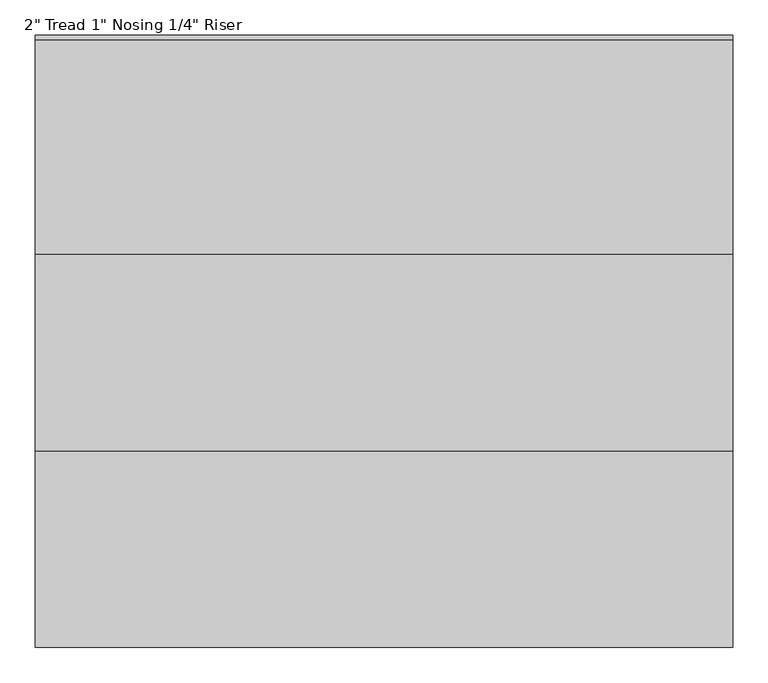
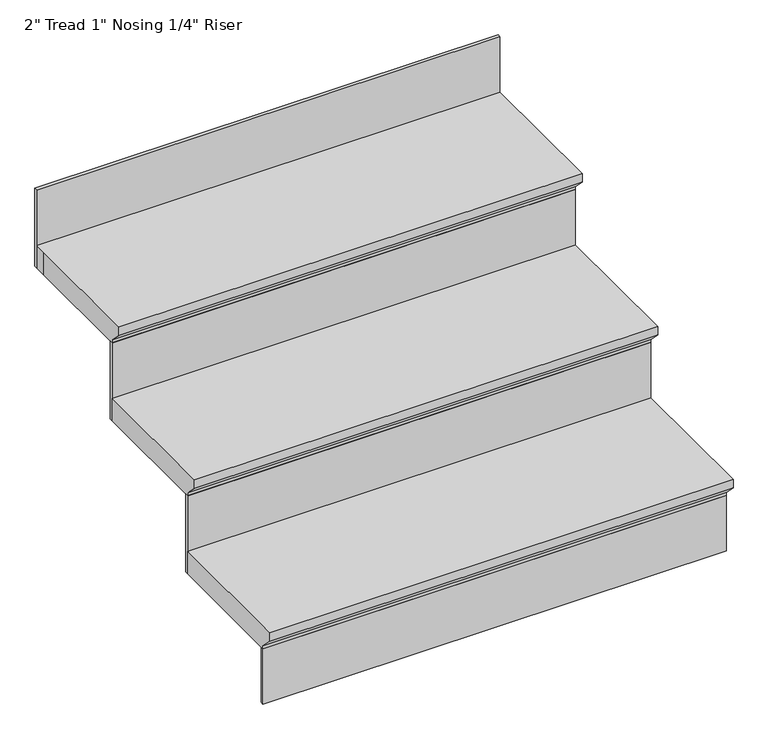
"""IFC4 building model written with IfcOpenShell, lengths in millimetres: stair flight geometry."""

from ifc_helpers import new_model, si_unit, origin, place, context, project, spatial, faceted_brep, source, transform, mapped, element, save


def stair_flight_c0ce1a1d(model_context):
    return source(origin(), model_context, "Body", "Brep", [
        faceted_brep([(4224.5939282, 2721.6563085, 157.4131579), (4224.5939282, 2721.6563085, 176.4631579), (3233.9939282, 2721.6563085, 176.4631579), (3233.9939282, 2721.6563085, 157.4131579), (4224.5939282, 2747.0563085, 132.0131579), (3233.9939282, 2747.0563085, 132.0131579), (4224.5939282, 3026.4563085, 176.4631579), (3233.9939282, 3026.4563085, 176.4631579), (3233.9939282, 2747.0563085, 125.6631579), (3233.9939282, 3026.4563085, 125.6631579), (4224.5939282, 3026.4563085, 125.6631579), (4224.5939282, 2747.0563085, 125.6631579)], [[[0, 1, 2, 3]], [[4, 0, 3, 5]], [[2, 1, 6, 7]], [[8, 9, 10, 11]], [[2, 7, 9, 8, 5, 3]], [[8, 11, 4, 5]], [[6, 1, 0, 4, 11, 10]], [[7, 6, 10, 9]]]),
        faceted_brep([(4224.5939282, 2747.0563085, 125.6631579), (4224.5939282, 2747.0563085, 0.0), (4224.5939282, 2753.4063085, 0.0), (4224.5939282, 2753.4063085, 125.6631579), (3233.9939282, 2747.0563085, 125.6631579), (3233.9939282, 2753.4063085, 125.6631579), (3233.9939282, 2753.4063085, 0.0), (3233.9939282, 2747.0563085, 0.0)], [[[0, 1, 2, 3]], [[4, 5, 6, 7]], [[1, 0, 4, 7]], [[2, 1, 7, 6]], [[3, 2, 6, 5]], [[0, 3, 5, 4]]]),
        faceted_brep([(4224.5939282, 3026.4563085, 302.1263158), (4224.5939282, 3026.4563085, 125.6631579), (4224.5939282, 3032.8063085, 125.6631579), (4224.5939282, 3032.8063085, 302.1263158), (3233.9939282, 3026.4563085, 302.1263158), (3233.9939282, 3032.8063085, 302.1263158), (3233.9939282, 3032.8063085, 125.6631579), (3233.9939282, 3026.4563085, 125.6631579)], [[[0, 1, 2, 3]], [[4, 5, 6, 7]], [[1, 0, 4, 7]], [[2, 1, 7, 6]], [[3, 2, 6, 5]], [[0, 3, 5, 4]]]),
        faceted_brep([(3233.9939282, 3001.0563085, 352.9263158), (4224.5939282, 3001.0563085, 352.9263158), (4224.5939282, 3305.8563085, 352.9263158), (3233.9939282, 3305.8563085, 352.9263158), (3233.9939282, 3026.4563085, 302.1263158), (3233.9939282, 3305.8563085, 302.1263158), (4224.5939282, 3305.8563085, 302.1263158), (4224.5939282, 3026.4563085, 302.1263158), (3233.9939282, 3026.4563085, 308.4763158), (3233.9939282, 3001.0563085, 333.8763158), (4224.5939282, 3026.4563085, 308.4763158), (4224.5939282, 3001.0563085, 333.8763158)], [[[0, 1, 2, 3]], [[4, 5, 6, 7]], [[0, 3, 5, 4, 8, 9]], [[4, 7, 10, 8]], [[2, 1, 11, 10, 7, 6]], [[3, 2, 6, 5]], [[11, 1, 0, 9]], [[10, 11, 9, 8]]]),
        faceted_brep([(4224.5939282, 3585.2563085, 655.0526316), (4224.5939282, 3585.2563085, 478.5894737), (4224.5939282, 3591.6063085, 478.5894737), (4224.5939282, 3591.6063085, 655.0526316), (3233.9939282, 3585.2563085, 655.0526316), (3233.9939282, 3591.6063085, 655.0526316), (3233.9939282, 3591.6063085, 478.5894737), (3233.9939282, 3585.2563085, 478.5894737)], [[[0, 1, 2, 3]], [[4, 5, 6, 7]], [[1, 0, 4, 7]], [[2, 1, 7, 6]], [[3, 2, 6, 5]], [[0, 3, 5, 4]]]),
        faceted_brep([(4224.5939282, 3305.8563085, 478.5894737), (4224.5939282, 3305.8563085, 302.1263158), (4224.5939282, 3312.2063085, 302.1263158), (4224.5939282, 3312.2063085, 478.5894737), (3233.9939282, 3305.8563085, 478.5894737), (3233.9939282, 3312.2063085, 478.5894737), (3233.9939282, 3312.2063085, 302.1263158), (3233.9939282, 3305.8563085, 302.1263158)], [[[0, 1, 2, 3]], [[4, 5, 6, 7]], [[1, 0, 4, 7]], [[2, 1, 7, 6]], [[3, 2, 6, 5]], [[0, 3, 5, 4]]]),
        faceted_brep([(3233.9939282, 3585.2563085, 529.3894737), (3233.9939282, 3559.8563085, 529.3894737), (3233.9939282, 3280.4563085, 529.3894737), (4224.5939282, 3280.4563085, 529.3894737), (4224.5939282, 3585.2563085, 529.3894737), (3233.9939282, 3559.8563085, 478.5894737), (3233.9939282, 3585.2563085, 478.5894737), (4224.5939282, 3585.2563085, 478.5894737), (4224.5939282, 3305.8563085, 478.5894737), (3233.9939282, 3305.8563085, 478.5894737), (3233.9939282, 3305.8563085, 484.9394737), (3233.9939282, 3280.4563085, 510.3394737), (4224.5939282, 3305.8563085, 484.9394737), (4224.5939282, 3280.4563085, 510.3394737)], [[[0, 1, 2, 3, 4]], [[5, 6, 7, 8, 9]], [[1, 0, 6, 5]], [[2, 1, 5, 9, 10, 11]], [[9, 8, 12, 10]], [[4, 3, 13, 12, 8, 7]], [[0, 4, 7, 6]], [[13, 3, 2, 11]], [[12, 13, 11, 10]]]),
    ])


if __name__ == "__main__":
    model = new_model("IFC4")
    model_context = context("Model", 3, world=origin())
    ifc_project = project(units=[si_unit("LENGTHUNIT", "METRE", prefix="MILLI")], contexts=[model_context])
    site = spatial("IfcSite", under=ifc_project)
    building = spatial("IfcBuilding", under=site)
    placement = place(None, origin())
    stair_flight_shape = stair_flight_c0ce1a1d(model_context)
    element("IfcStairFlight", 1, ObjectType="2\" Tread 1\" Nosing 1/4\" Riser", at=placement, inside=building, context=model_context, shape_type="MappedRepresentation", body=[
        mapped(stair_flight_shape, transform((0.0, 0.0, 0.0), x_axis=(1.0, 0.0, 0.0), y_axis=(0.0, 1.0, 0.0), z_axis=(0.0, 0.0, 1.0))),
    ])
    save(model, "model.ifc")
